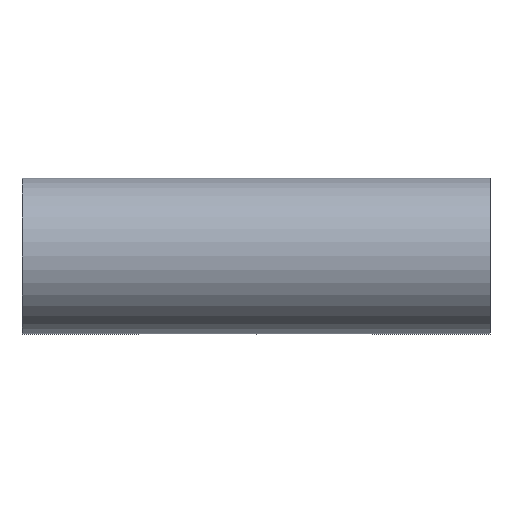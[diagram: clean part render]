
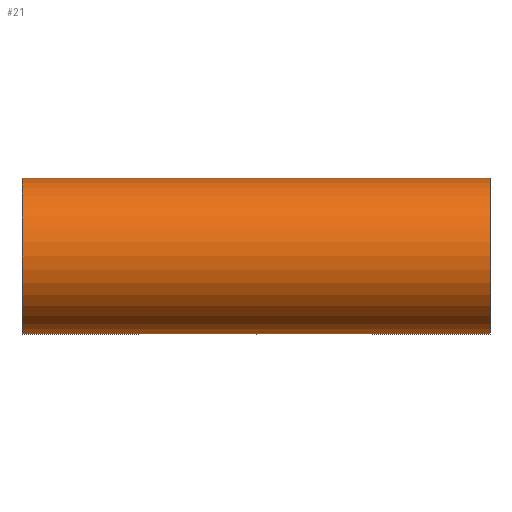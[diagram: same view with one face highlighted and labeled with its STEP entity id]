
A CAD part, front view. The second image highlights one B-rep face of the part: STEP entity #21.
In plain terms, the highlighted cylindrical face has radius 25.4 mm (diameter 50.8 mm), a partial arc.
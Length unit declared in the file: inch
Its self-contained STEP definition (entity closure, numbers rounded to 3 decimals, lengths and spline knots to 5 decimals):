
#6 = CARTESIAN_POINT ( 'NONE',  ( 3., 0., -1. ) ) ;
#19 = DIRECTION ( 'NONE',  ( -1., 0., 0. ) ) ;
#21 = ADVANCED_FACE ( 'NONE', ( #224 ), #219, .T. ) ;
#44 = CARTESIAN_POINT ( 'NONE',  ( 0., 0., -1. ) ) ;
#53 = DIRECTION ( 'NONE',  ( -1., 0., 0. ) ) ;
#66 = CARTESIAN_POINT ( 'NONE',  ( -3., 0., -1. ) ) ;
#76 = DIRECTION ( 'NONE',  ( 1., 0., 0. ) ) ;
#90 = CARTESIAN_POINT ( 'NONE',  ( 3., 0., 0. ) ) ;
#103 = VECTOR ( 'NONE', #19, 39.37008 ) ;
#105 = VECTOR ( 'NONE', #399, 39.37008 ) ;
#107 = LINE ( 'NONE', #141, #103 ) ;
#110 = LINE ( 'NONE', #191, #105 ) ;
#116 = CARTESIAN_POINT ( 'NONE',  ( -3., 0., 0. ) ) ;
#130 = VECTOR ( 'NONE', #340, 39.37008 ) ;
#135 = LINE ( 'NONE', #169, #130 ) ;
#141 = CARTESIAN_POINT ( 'NONE',  ( 3., 0., -1. ) ) ;
#143 = VERTEX_POINT ( 'NONE', #332 ) ;
#152 = CARTESIAN_POINT ( 'NONE',  ( 3., 0., 0. ) ) ;
#155 = CARTESIAN_POINT ( 'NONE',  ( 3., 0., 1. ) ) ;
#164 = VECTOR ( 'NONE', #53, 39.37008 ) ;
#169 = CARTESIAN_POINT ( 'NONE',  ( 3., 0., -1. ) ) ;
#179 = LINE ( 'NONE', #155, #164 ) ;
#180 = CIRCLE ( 'NONE', #355, 1. ) ;
#188 = CIRCLE ( 'NONE', #360, 1. ) ;
#191 = CARTESIAN_POINT ( 'NONE',  ( 3., 0., 1. ) ) ;
#219 = CYLINDRICAL_SURFACE ( 'NONE', #400, 1. ) ;
#224 = FACE_OUTER_BOUND ( 'NONE', #244, .T. ) ;
#234 = DIRECTION ( 'NONE',  ( 0., 0., -1. ) ) ;
#235 = VERTEX_POINT ( 'NONE', #66 ) ;
#238 = DIRECTION ( 'NONE',  ( 1., 0., 0. ) ) ;
#241 = DIRECTION ( 'NONE',  ( 0., 0., 1. ) ) ;
#242 = ORIENTED_EDGE ( 'NONE', *, *, #446, .F. ) ;
#244 = EDGE_LOOP ( 'NONE', ( #304, #249, #435, #369, #334, #242 ) ) ;
#246 = VERTEX_POINT ( 'NONE', #386 ) ;
#249 = ORIENTED_EDGE ( 'NONE', *, *, #322, .F. ) ;
#258 = VERTEX_POINT ( 'NONE', #44 ) ;
#264 = VERTEX_POINT ( 'NONE', #351 ) ;
#304 = ORIENTED_EDGE ( 'NONE', *, *, #427, .F. ) ;
#319 = DIRECTION ( 'NONE',  ( 0., 0., -1. ) ) ;
#322 = EDGE_CURVE ( 'NONE', #246, #408, #188, .T. ) ;
#326 = EDGE_CURVE ( 'NONE', #264, #235, #180, .T. ) ;
#332 = CARTESIAN_POINT ( 'NONE',  ( 0., 0., 1. ) ) ;
#334 = ORIENTED_EDGE ( 'NONE', *, *, #326, .T. ) ;
#340 = DIRECTION ( 'NONE',  ( -1., 0., 0. ) ) ;
#351 = CARTESIAN_POINT ( 'NONE',  ( -3., 0., 1. ) ) ;
#355 = AXIS2_PLACEMENT_3D ( 'NONE', #116, #238, #234 ) ;
#360 = AXIS2_PLACEMENT_3D ( 'NONE', #152, #76, #319 ) ;
#369 = ORIENTED_EDGE ( 'NONE', *, *, #385, .T. ) ;
#385 = EDGE_CURVE ( 'NONE', #143, #264, #179, .T. ) ;
#386 = CARTESIAN_POINT ( 'NONE',  ( 3., 0., 1. ) ) ;
#399 = DIRECTION ( 'NONE',  ( -1., 0., 0. ) ) ;
#400 = AXIS2_PLACEMENT_3D ( 'NONE', #90, #404, #241 ) ;
#404 = DIRECTION ( 'NONE',  ( -1., 0., 0. ) ) ;
#408 = VERTEX_POINT ( 'NONE', #6 ) ;
#427 = EDGE_CURVE ( 'NONE', #408, #258, #135, .T. ) ;
#435 = ORIENTED_EDGE ( 'NONE', *, *, #444, .T. ) ;
#444 = EDGE_CURVE ( 'NONE', #246, #143, #110, .T. ) ;
#446 = EDGE_CURVE ( 'NONE', #258, #235, #107, .T. ) ;
